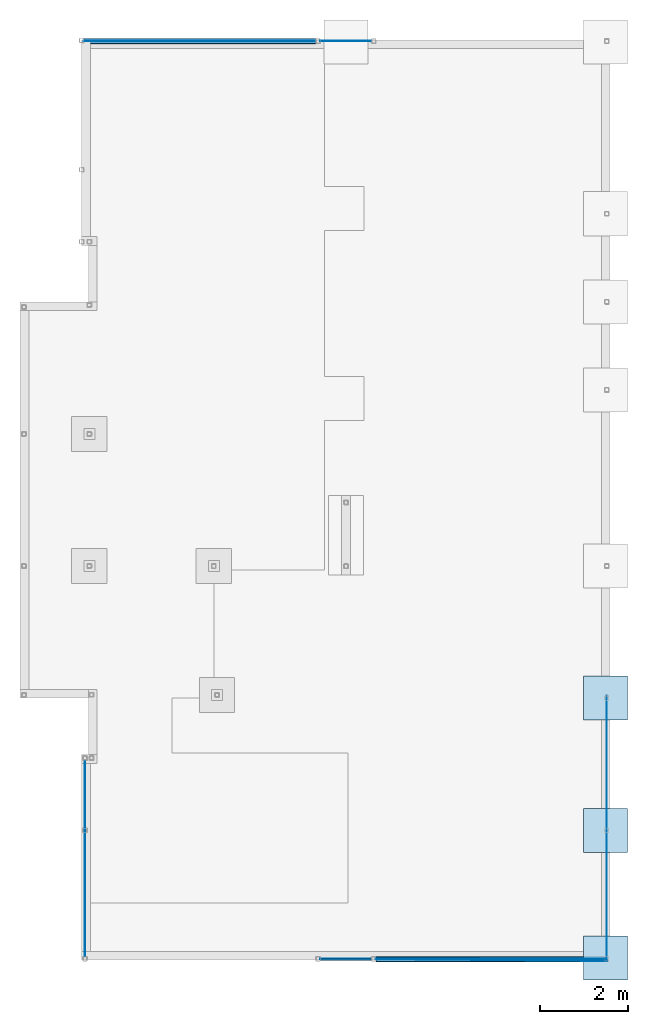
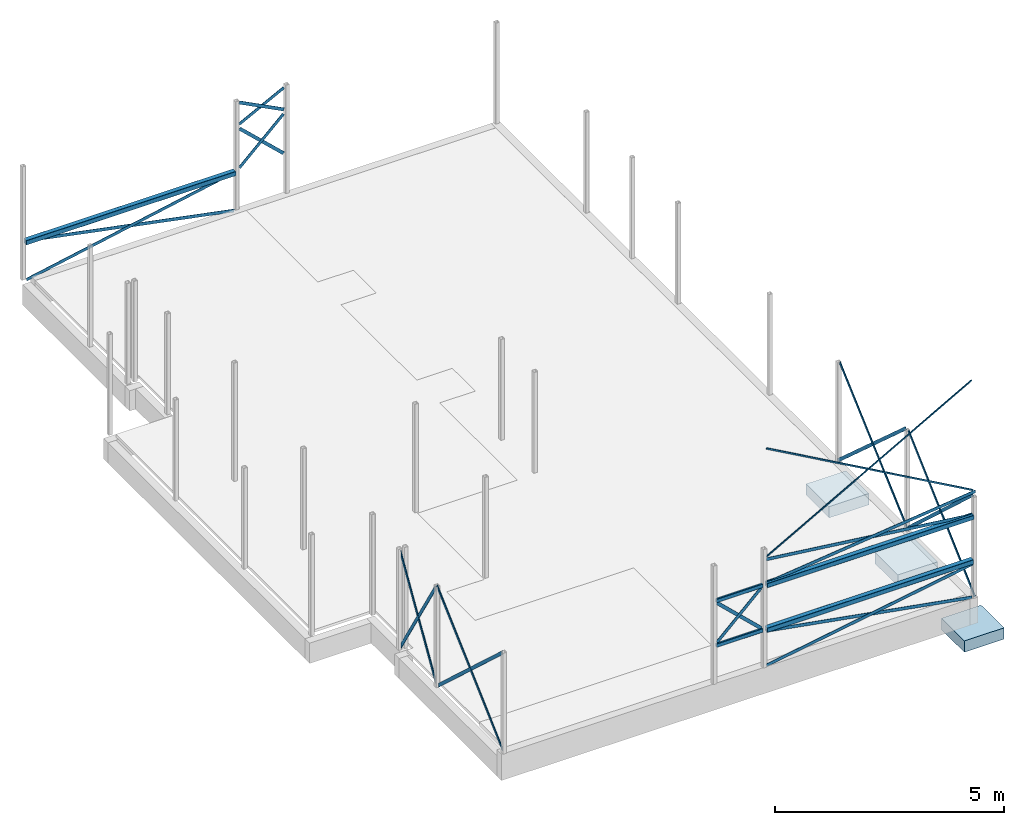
# One storey, part 4 of 5: 27 beams, 3 slabs.
"""IFC2X3 building model written with IfcOpenShell, lengths in millimetres."""

import ifcopenshell
import ifcopenshell.guid

model = None  # the IFC model being written
_history = None  # IfcOwnerHistory: only IFC2X3 demands one
_inside = {}  # id of a spatial element -> (the spatial element, [elements in it])
_under = {}  # id of a project, library or spatial element -> (it, [spatial elements below it])
_declared = {}  # id of a project -> (the project, [libraries it declares])
_typed = {}  # id of a type object -> (the type object, [elements of that type])
_made_of = {}  # id of a material, layer set ... -> (it, [elements and type objects made of it])


def new_model(schema):
    """Start an empty IFC model of exactly this schema.

    Asked for "IFC4X3", IfcOpenShell would pick the latest addendum, in which some entities
    have other attributes; the version numbers below select the first issue.
    IFC2X3 requires an IfcOwnerHistory on every rooted entity: one is made here for all.
    """
    global model, _history
    if schema == "IFC4X3":
        model = ifcopenshell.file(schema_version=(4, 3, 0, 0))
    else:
        model = ifcopenshell.file(schema=schema)
    _inside.clear()
    _under.clear()
    _declared.clear()
    _typed.clear()
    _made_of.clear()
    _history = None
    if model.schema == "IFC2X3":
        org = make("IfcOrganization", Name="unknown")
        user = make(
            "IfcPersonAndOrganization",
            ThePerson=make("IfcPerson", FamilyName="unknown"),
            TheOrganization=org,
        )
        app = make(
            "IfcApplication",
            ApplicationDeveloper=org,
            Version="unknown",
            ApplicationFullName="unknown",
            ApplicationIdentifier="unknown",
        )
        _history = make(
            "IfcOwnerHistory",
            OwningUser=user,
            OwningApplication=app,
            ChangeAction="ADDED",
            CreationDate=0,
        )
    return model


def make(cls, **values):
    """One entity of the class cls with the attributes given. An attribute that is None is left unset."""
    return model.create_entity(
        cls, **{name: value for name, value in values.items() if value is not None}
    )


def entity(cls, *values):
    """Any entity or typed value of the class cls, its attributes in the order of the schema. None: left unset."""
    e = model.create_entity(cls)
    for i, value in enumerate(values):
        if value is not None:
            e[i] = value
    return e


def rooted(cls, **values):
    """An entity with a GlobalId (a new one), such as an element, a storey or a relation."""
    return make(cls, GlobalId=ifcopenshell.guid.new(), OwnerHistory=_history, **values)


def si_unit(unit_type, name, prefix=None):
    """IfcSIUnit, for example si_unit("LENGTHUNIT", "METRE", prefix="MILLI")."""
    return make("IfcSIUnit", UnitType=unit_type, Prefix=prefix, Name=name)


def converted_unit(unit_type, name, factor, base, dimensions=None, offset=None):
    """IfcConversionBasedUnit, such as the inch: factor (a typed value) times the base unit."""
    return make(
        "IfcConversionBasedUnit"
        if offset is None
        else "IfcConversionBasedUnitWithOffset",
        ConversionOffset=offset,
        Dimensions=None
        if dimensions is None
        else entity("IfcDimensionalExponents", *dimensions),
        UnitType=unit_type,
        Name=name,
        ConversionFactor=make(
            "IfcMeasureWithUnit", ValueComponent=factor, UnitComponent=base
        ),
    )


def derived_unit(unit_type, elements):
    """IfcDerivedUnit: a product of units, each with its exponent."""
    return make(
        "IfcDerivedUnit",
        Elements=[
            make("IfcDerivedUnitElement", Unit=unit, Exponent=power)
            for unit, power in elements
        ],
        UnitType=unit_type,
    )


def assignment(units):
    """IfcUnitAssignment: the units of a project."""
    return None if units is None else make("IfcUnitAssignment", Units=units)


def point(xyz):
    """IfcCartesianPoint."""
    return None if xyz is None else make("IfcCartesianPoint", Coordinates=xyz)


def direction(xyz):
    """IfcDirection."""
    return None if xyz is None else make("IfcDirection", DirectionRatios=xyz)


def frame(location, z_axis=None, x_axis=None):
    """IfcAxis2Placement3D, a coordinate frame: its origin and axes. An axis left out is left unset."""
    return make(
        "IfcAxis2Placement3D",
        Location=point(location),
        Axis=direction(z_axis),
        RefDirection=direction(x_axis),
    )


def frame_2d(location, x_axis=None):
    """IfcAxis2Placement2D, a coordinate frame in the plane: its origin and x axis."""
    return make(
        "IfcAxis2Placement2D", Location=point(location), RefDirection=direction(x_axis)
    )


def origin():
    """The frame at (0, 0, 0) with its axes left unset."""
    return frame((0.0, 0.0, 0.0))


def origin_2d_with_axis():
    """The frame at (0, 0) in the plane with the x axis (1, 0) written out."""
    return frame_2d((0.0, 0.0), x_axis=(1.0, 0.0))


def place(relative_to, where):
    """IfcLocalPlacement: puts the frame where relative to a parent placement (None: the world)."""
    return make(
        "IfcLocalPlacement", PlacementRelTo=relative_to, RelativePlacement=where
    )


def context(
    kind, dimensions, precision=None, world=None, true_north=None, identifier=None
):
    """IfcGeometricRepresentationContext, for example the 3D "Model" context."""
    return make(
        "IfcGeometricRepresentationContext",
        ContextIdentifier=identifier,
        ContextType=kind,
        CoordinateSpaceDimension=dimensions,
        Precision=precision,
        WorldCoordinateSystem=world,
        TrueNorth=true_north,
    )


def subcontext(parent, identifier, kind, view, scale=None):
    """IfcGeometricRepresentationSubContext, for example "Body" below "Model"."""
    return make(
        "IfcGeometricRepresentationSubContext",
        ContextIdentifier=identifier,
        ContextType=kind,
        ParentContext=parent,
        TargetScale=scale,
        TargetView=view,
    )


def project(units=None, contexts=None):
    """IfcProject with its units and contexts."""
    return rooted(
        "IfcProject",
        Name="project",
        RepresentationContexts=contexts,
        UnitsInContext=assignment(units),
    )


def spatial(cls, under=None, at=None, **own):
    """A site, building, storey or space (cls), placed at a placement, below another one or the project."""
    s = rooted(cls, ObjectPlacement=at, **own)
    if under is not None:
        _under.setdefault(under.id(), (under, []))[1].append(s)
    return s


def polyline(points):
    """IfcPolyline through the points."""
    return make("IfcPolyline", Points=[point(p) for p in points])


def circle_curve(where, radius):
    """IfcCircle in the frame where."""
    return make("IfcCircle", Position=where, Radius=radius)


def parameter(value):
    """IfcParameterValue: where a trimmed curve begins or ends, as a parameter of its basis curve."""
    return model.create_entity("IfcParameterValue", value)


def trimmed(basis, trim1, trim2, sense, master):
    """IfcTrimmedCurve: the piece of a basis curve between two trims."""
    return make(
        "IfcTrimmedCurve",
        BasisCurve=basis,
        Trim1=trim1,
        Trim2=trim2,
        SenseAgreement=sense,
        MasterRepresentation=master,
    )


def segment(curve, same_sense, transition):
    """IfcCompositeCurveSegment."""
    return make(
        "IfcCompositeCurveSegment",
        Transition=transition,
        SameSense=same_sense,
        ParentCurve=curve,
    )


def composite_curve(segments, self_intersect=None):
    """IfcCompositeCurve: segments joined end to end."""
    return make("IfcCompositeCurve", Segments=segments, SelfIntersect=self_intersect)


def profile(cls, at=None, kind="AREA", **sizes):
    """A parametric profile (cls). Its sizes go by their IFC names, for example OverallWidth=200.0."""
    return make(cls, ProfileType=kind, Position=at, **sizes)


def rectangle(**sizes):
    """IfcRectangleProfileDef."""
    return profile("IfcRectangleProfileDef", **sizes)


def outline(outer, holes=None, kind="AREA"):
    """IfcArbitraryClosedProfileDef: a profile drawn as a closed curve; with holes, ...WithVoids."""
    if holes is None:
        return make("IfcArbitraryClosedProfileDef", ProfileType=kind, OuterCurve=outer)
    return make(
        "IfcArbitraryProfileDefWithVoids",
        ProfileType=kind,
        OuterCurve=outer,
        InnerCurves=holes,
    )


def extrude(swept, where, along, depth):
    """IfcExtrudedAreaSolid: the profile swept, set in the frame where, extruded along a direction by depth."""
    return make(
        "IfcExtrudedAreaSolid",
        SweptArea=swept,
        Position=where,
        ExtrudedDirection=direction(along),
        Depth=depth,
    )


def clip(a, b, op="DIFFERENCE"):
    """IfcBooleanClippingResult: the solid a cut by the half space b."""
    return make(
        "IfcBooleanClippingResult", Operator=op, FirstOperand=a, SecondOperand=b
    )


def halfspace(plane, agree):
    """IfcHalfSpaceSolid: all space on one side of the plane z = 0 of the frame plane."""
    return make(
        "IfcHalfSpaceSolid",
        BaseSurface=make("IfcPlane", Position=plane),
        AgreementFlag=agree,
    )


def shape(context_of_items, identifier, shape_type, items):
    """IfcShapeRepresentation: the items that make up one representation, for example the "Body"."""
    return make(
        "IfcShapeRepresentation",
        ContextOfItems=context_of_items,
        RepresentationIdentifier=identifier,
        RepresentationType=shape_type,
        Items=items,
    )


def material(Name=None, Category=None):
    """IfcMaterial."""
    return make("IfcMaterial", Name=Name, Category=Category)


def made_of(thing, what):
    """Note that an element or type object is made of a material, layer set ...; save() writes the relation."""
    if what is not None:
        _made_of.setdefault(what.id(), (what, []))[1].append(thing)
    return thing


def type_object(cls, material=None, **own):
    """A type object (cls), such as IfcWallType, which elements share."""
    return made_of(rooted(cls, **own), material)


def element(
    cls,
    number,
    at=None,
    inside=None,
    cuts=None,
    type_object=None,
    material=None,
    context=None,
    identifier="Body",
    shape_type=None,
    held_by="IfcProductDefinitionShape",
    body=None,
    shapes=None,
    **own,
):
    """One element of the class cls, such as IfcWall. Its Tag is "e" and its number.

    at: its placement. inside: the storey or other place that contains it. cuts: it is an
    opening in that element (IfcRelVoidsElement). A single representation is given by context,
    identifier, shape_type and body (its items); several are given by shapes. held_by: the class
    of the entity that holds the representations. save() writes the other relations.
    """
    e = rooted(cls, Tag="e%d" % number, ObjectPlacement=at, **own)
    if body is not None:
        shapes = [shape(context, identifier, shape_type, body)]
    if shapes is not None:
        e.Representation = make(held_by, Representations=shapes)
    if inside is not None:
        _inside.setdefault(inside.id(), (inside, []))[1].append(e)
    if cuts is not None:
        rooted(
            "IfcRelVoidsElement", RelatingBuildingElement=cuts, RelatedOpeningElement=e
        )
    if type_object is not None:
        _typed.setdefault(type_object.id(), (type_object, []))[1].append(e)
    return made_of(e, material)


def aggregate(whole, parts):
    """IfcRelAggregates: a whole, such as a stair, and the parts it consists of."""
    return rooted("IfcRelAggregates", RelatingObject=whole, RelatedObjects=parts)


def save(model, path):
    """Write the relations noted so far, then the file.

    IfcRelAggregates (storeys below a building ...), IfcRelContainedInSpatialStructure (elements
    in a storey), IfcRelDefinesByType, IfcRelAssociatesMaterial and IfcRelDeclares: one each for
    every whole, place, type object, material and project.
    """
    for whole, parts in _under.values():
        aggregate(whole, parts)
    for where, things in _inside.values():
        rooted(
            "IfcRelContainedInSpatialStructure",
            RelatedElements=things,
            RelatingStructure=where,
        )
    for kind, things in _typed.values():
        rooted("IfcRelDefinesByType", RelatedObjects=things, RelatingType=kind)
    for what, things in _made_of.values():
        rooted("IfcRelAssociatesMaterial", RelatedObjects=things, RelatingMaterial=what)
    for by, libraries in _declared.values():
        rooted("IfcRelDeclares", RelatingContext=by, RelatedDefinitions=libraries)
    model.write(path)


model = new_model("IFC2X3")

# Units and contexts
model_context = context("Model", 3, precision=0.01, world=origin(), true_north=direction((6.12303176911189e-17, 1.0)))
body_context = subcontext(model_context, "Body", "Model", "MODEL_VIEW")
ifc_project = project(units=[si_unit("LENGTHUNIT", "METRE", prefix="MILLI"), si_unit("AREAUNIT", "SQUARE_METRE"), si_unit("VOLUMEUNIT", "CUBIC_METRE"), converted_unit("PLANEANGLEUNIT", "DEGREE", entity("IfcRatioMeasure", 0.0174532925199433), si_unit("PLANEANGLEUNIT", "RADIAN"), dimensions=[0, 0, 0, 0, 0, 0, 0]), si_unit("MASSUNIT", "GRAM", prefix="KILO"), derived_unit("MASSDENSITYUNIT", [(si_unit("MASSUNIT", "GRAM", prefix="KILO"), 1), (si_unit("LENGTHUNIT", "METRE"), -3)]), si_unit("TIMEUNIT", "SECOND"), si_unit("FREQUENCYUNIT", "HERTZ"), si_unit("THERMODYNAMICTEMPERATUREUNIT", "DEGREE_CELSIUS"), derived_unit("THERMALTRANSMITTANCEUNIT", [(si_unit("MASSUNIT", "GRAM", prefix="KILO"), 1), (si_unit("THERMODYNAMICTEMPERATUREUNIT", "KELVIN"), -1), (si_unit("TIMEUNIT", "SECOND"), -3)]), derived_unit("VOLUMETRICFLOWRATEUNIT", [(si_unit("LENGTHUNIT", "METRE"), 3), (si_unit("TIMEUNIT", "SECOND"), -1)]), si_unit("ELECTRICCURRENTUNIT", "AMPERE"), si_unit("ELECTRICVOLTAGEUNIT", "VOLT"), si_unit("POWERUNIT", "WATT"), si_unit("FORCEUNIT", "NEWTON", prefix="KILO"), si_unit("ILLUMINANCEUNIT", "LUX"), si_unit("LUMINOUSFLUXUNIT", "LUMEN"), si_unit("LUMINOUSINTENSITYUNIT", "CANDELA"), derived_unit("USERDEFINED", [(si_unit("MASSUNIT", "GRAM", prefix="KILO"), -1), (si_unit("LENGTHUNIT", "METRE"), -2), (si_unit("TIMEUNIT", "SECOND"), 3), (si_unit("LUMINOUSFLUXUNIT", "LUMEN"), 1)]), derived_unit("LINEARVELOCITYUNIT", [(si_unit("LENGTHUNIT", "METRE"), 1), (si_unit("TIMEUNIT", "SECOND"), -1)]), si_unit("PRESSUREUNIT", "PASCAL"), derived_unit("USERDEFINED", [(si_unit("LENGTHUNIT", "METRE"), -2), (si_unit("MASSUNIT", "GRAM", prefix="KILO"), 1), (si_unit("TIMEUNIT", "SECOND"), -2)])], contexts=[model_context])

# Site, building, storey
site_placement = place(None, frame((0.0, 0.0, 101000.0)))
site = spatial("IfcSite", under=ifc_project, at=site_placement, Name="Default", CompositionType="ELEMENT")
building_placement = place(site_placement, origin())
building = spatial("IfcBuilding", under=site, at=building_placement, CompositionType="ELEMENT")
storey_placement = place(building_placement, origin())
storey = spatial("IfcBuildingStorey", under=building, at=storey_placement, Name="01", CompositionType="ELEMENT", Elevation=8.9295595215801e-10)

# Beams
ifc_material_1 = material(Name="S355")
beam_type_1 = type_object("IfcBeamType", Name="Bjelke HUP:HUP 100x50x5", PredefinedType="BEAM")
beam_1_placement = place(storey_placement, frame((16557.3191703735, 23487.8756540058, 1045.0)))
element("IfcBeam", 1, at=beam_1_placement, inside=storey, type_object=beam_type_1, material=ifc_material_1, Name="Bjelke HUP:HUP 100x50x5", ObjectType="Bjelke HUP:HUP 100x50x5", context=body_context, shape_type="SweptSolid", body=[
    extrude(outline(composite_curve([segment(trimmed(circle_curve(frame_2d((-15.0, -40.0), x_axis=(1.0, 0.0)), 10.0), [parameter(180.0)], [parameter(270.0)], True, "PARAMETER"), True, "CONTINUOUS"), segment(polyline([(-15.0, -50.0), (15.0, -50.0)]), True, "CONTINUOUS"), segment(trimmed(circle_curve(frame_2d((15.0, -40.0), x_axis=(1.0, 0.0)), 10.0), [parameter(270.0)], [parameter(1.01777749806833e-13)], True, "PARAMETER"), True, "CONTINUOUS"), segment(polyline([(25.0, -40.0), (25.0, 40.0)]), True, "CONTINUOUS"), segment(trimmed(circle_curve(frame_2d((15.0, 40.0), x_axis=(1.0, 0.0)), 10.0), [parameter(360.0)], [parameter(89.9999999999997)], True, "PARAMETER"), True, "CONTINUOUS"), segment(polyline([(15.0, 50.0), (-15.0, 50.0)]), True, "CONTINUOUS"), segment(trimmed(circle_curve(frame_2d((-15.0, 40.0), x_axis=(1.0, 0.0)), 10.0), [parameter(90.0000000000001)], [parameter(180.0)], True, "PARAMETER"), True, "CONTINUOUS"), segment(polyline([(-25.0, 40.0), (-25.0, -40.0)]), True, "CONTINUOUS")], self_intersect=False), holes=[composite_curve([segment(polyline([(15.0, -45.0), (-15.0, -45.0)]), True, "CONTINUOUS"), segment(trimmed(circle_curve(frame_2d((-15.0, -40.0), x_axis=(1.0, 0.0)), 5.0), [parameter(180.0)], [parameter(270.0)], True, "PARAMETER"), False, "CONTINUOUS"), segment(polyline([(-20.0, -40.0), (-20.0, 40.0)]), True, "CONTINUOUS"), segment(trimmed(circle_curve(frame_2d((-15.0, 40.0), x_axis=(1.0, 0.0)), 5.0), [parameter(90.0000000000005)], [parameter(180.0)], True, "PARAMETER"), False, "CONTINUOUS"), segment(polyline([(-15.0, 45.0), (15.0, 45.0)]), True, "CONTINUOUS"), segment(trimmed(circle_curve(frame_2d((15.0, 40.0), x_axis=(1.0, 0.0)), 5.0), [parameter(0.0)], [parameter(90.0000000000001)], True, "PARAMETER"), False, "CONTINUOUS"), segment(polyline([(20.0, 40.0), (20.0, -40.0)]), True, "CONTINUOUS"), segment(trimmed(circle_curve(frame_2d((15.0, -40.0), x_axis=(1.0, 0.0)), 5.0), [parameter(270.0)], [parameter(3.05333249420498e-13)], True, "PARAMETER"), False, "CONTINUOUS")], self_intersect=False)]), frame((47.9710376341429, 0.0, -50.0), z_axis=(1.0, 0.0, 0.0), x_axis=(0.0, -1.0, 0.0)), (0.0, 0.0, 1.0), 1161.94875565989),
])
beam_2_placement = place(storey_placement, frame((16557.3191703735, 23487.8756540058, 2235.0)))
element("IfcBeam", 2, at=beam_2_placement, inside=storey, type_object=beam_type_1, material=ifc_material_1, Name="Bjelke HUP:HUP 100x50x5", ObjectType="Bjelke HUP:HUP 100x50x5", context=body_context, shape_type="SweptSolid", body=[
    extrude(outline(composite_curve([segment(trimmed(circle_curve(frame_2d((-15.0, -40.0), x_axis=(1.0, 0.0)), 10.0), [parameter(180.0)], [parameter(270.0)], True, "PARAMETER"), True, "CONTINUOUS"), segment(polyline([(-15.0, -50.0), (15.0, -50.0)]), True, "CONTINUOUS"), segment(trimmed(circle_curve(frame_2d((15.0, -40.0), x_axis=(1.0, 0.0)), 10.0), [parameter(270.0)], [parameter(1.01777749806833e-13)], True, "PARAMETER"), True, "CONTINUOUS"), segment(polyline([(25.0, -40.0), (25.0, 40.0)]), True, "CONTINUOUS"), segment(trimmed(circle_curve(frame_2d((15.0, 40.0), x_axis=(1.0, 0.0)), 10.0), [parameter(360.0)], [parameter(89.9999999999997)], True, "PARAMETER"), True, "CONTINUOUS"), segment(polyline([(15.0, 50.0), (-15.0, 50.0)]), True, "CONTINUOUS"), segment(trimmed(circle_curve(frame_2d((-15.0, 40.0), x_axis=(1.0, 0.0)), 10.0), [parameter(90.0000000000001)], [parameter(180.0)], True, "PARAMETER"), True, "CONTINUOUS"), segment(polyline([(-25.0, 40.0), (-25.0, -40.0)]), True, "CONTINUOUS")], self_intersect=False), holes=[composite_curve([segment(polyline([(15.0, -45.0), (-15.0, -45.0)]), True, "CONTINUOUS"), segment(trimmed(circle_curve(frame_2d((-15.0, -40.0), x_axis=(1.0, 0.0)), 5.0), [parameter(180.0)], [parameter(270.0)], True, "PARAMETER"), False, "CONTINUOUS"), segment(polyline([(-20.0, -40.0), (-20.0, 40.0)]), True, "CONTINUOUS"), segment(trimmed(circle_curve(frame_2d((-15.0, 40.0), x_axis=(1.0, 0.0)), 5.0), [parameter(90.0000000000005)], [parameter(180.0)], True, "PARAMETER"), False, "CONTINUOUS"), segment(polyline([(-15.0, 45.0), (15.0, 45.0)]), True, "CONTINUOUS"), segment(trimmed(circle_curve(frame_2d((15.0, 40.0), x_axis=(1.0, 0.0)), 5.0), [parameter(0.0)], [parameter(90.0000000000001)], True, "PARAMETER"), False, "CONTINUOUS"), segment(polyline([(20.0, 40.0), (20.0, -40.0)]), True, "CONTINUOUS"), segment(trimmed(circle_curve(frame_2d((15.0, -40.0), x_axis=(1.0, 0.0)), 5.0), [parameter(270.0)], [parameter(3.05333249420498e-13)], True, "PARAMETER"), False, "CONTINUOUS")], self_intersect=False)]), frame((47.9710376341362, 0.0, -50.0), z_axis=(1.0, 0.0, 0.0), x_axis=(0.0, -1.0, 0.0)), (0.0, 0.0, 1.0), 1161.94875565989),
])
beam_type_2 = type_object("IfcBeamType", Name="Bjelke HUP:HUP 120x120x5", PredefinedType="BEAM")
beam_3_placement = place(storey_placement, frame((17805.5082167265, 23487.8756540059, 2235.0)))
element("IfcBeam", 3, at=beam_3_placement, inside=storey, type_object=beam_type_2, material=ifc_material_1, Name="Bjelke HUP:HUP 120x120x5", ObjectType="Bjelke HUP:HUP 120x120x5", context=body_context, shape_type="SweptSolid", body=[
    extrude(outline(composite_curve([segment(trimmed(circle_curve(frame_2d((-50.0, -50.0), x_axis=(1.0, 0.0)), 10.0), [parameter(180.0)], [parameter(269.999999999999)], True, "PARAMETER"), True, "CONTINUOUS"), segment(polyline([(-50.0, -60.0), (50.0, -60.0)]), True, "CONTINUOUS"), segment(trimmed(circle_curve(frame_2d((50.0, -50.0), x_axis=(1.0, 0.0)), 10.0), [parameter(270.0)], [parameter(5.08888749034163e-14)], True, "PARAMETER"), True, "CONTINUOUS"), segment(polyline([(60.0, -50.0), (60.0, 50.0)]), True, "CONTINUOUS"), segment(trimmed(circle_curve(frame_2d((50.0, 50.0), x_axis=(1.0, 0.0)), 10.0), [parameter(360.0)], [parameter(89.9999999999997)], True, "PARAMETER"), True, "CONTINUOUS"), segment(polyline([(50.0, 60.0), (-50.0, 60.0)]), True, "CONTINUOUS"), segment(trimmed(circle_curve(frame_2d((-50.0, 50.0), x_axis=(1.0, 0.0)), 10.0), [parameter(90.0000000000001)], [parameter(180.0)], True, "PARAMETER"), True, "CONTINUOUS"), segment(polyline([(-60.0, 50.0), (-60.0, -50.0)]), True, "CONTINUOUS")], self_intersect=False), holes=[composite_curve([segment(polyline([(50.0, -55.0), (-50.0, -55.0)]), True, "CONTINUOUS"), segment(trimmed(circle_curve(frame_2d((-50.0, -50.0), x_axis=(1.0, 0.0)), 5.0), [parameter(180.0)], [parameter(270.0)], True, "PARAMETER"), False, "CONTINUOUS"), segment(polyline([(-55.0, -50.0), (-55.0, 50.0)]), True, "CONTINUOUS"), segment(trimmed(circle_curve(frame_2d((-50.0, 50.0), x_axis=(1.0, 0.0)), 5.0), [parameter(90.0000000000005)], [parameter(180.0)], True, "PARAMETER"), False, "CONTINUOUS"), segment(polyline([(-50.0, 55.0), (50.0, 55.0)]), True, "CONTINUOUS"), segment(trimmed(circle_curve(frame_2d((50.0, 50.0), x_axis=(1.0, 0.0)), 5.0), [parameter(0.0)], [parameter(90.0000000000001)], True, "PARAMETER"), False, "CONTINUOUS"), segment(polyline([(55.0, 50.0), (55.0, -50.0)]), True, "CONTINUOUS"), segment(trimmed(circle_curve(frame_2d((50.0, -50.0), x_axis=(1.0, 0.0)), 5.0), [parameter(270.0)], [parameter(3.05333249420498e-13)], True, "PARAMETER"), False, "CONTINUOUS")], self_intersect=False)]), frame((61.7307469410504, 0.0, -60.0), z_axis=(1.0, 0.0, 0.0), x_axis=(0.0, -1.0, 0.0)), (0.0, 0.0, 1.0), 5194.02553270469),
])
beam_4_placement = place(storey_placement, frame((17805.5082167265, 23487.8756540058, 1045.0), z_axis=(0.0, 0.0, 1.0), x_axis=(0.999998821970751, 0.0015349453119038, 0.0)))
element("IfcBeam", 4, at=beam_4_placement, inside=storey, type_object=beam_type_2, material=ifc_material_1, Name="Bjelke HUP:HUP 120x120x5", ObjectType="Bjelke HUP:HUP 120x120x5", context=body_context, shape_type="SweptSolid", body=[
    extrude(outline(composite_curve([segment(trimmed(circle_curve(frame_2d((-50.0, -50.0), x_axis=(1.0, 0.0)), 10.0), [parameter(180.0)], [parameter(269.999999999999)], True, "PARAMETER"), True, "CONTINUOUS"), segment(polyline([(-50.0, -60.0), (50.0, -60.0)]), True, "CONTINUOUS"), segment(trimmed(circle_curve(frame_2d((50.0, -50.0), x_axis=(1.0, 0.0)), 10.0), [parameter(270.0)], [parameter(5.08888749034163e-14)], True, "PARAMETER"), True, "CONTINUOUS"), segment(polyline([(60.0, -50.0), (60.0, 50.0)]), True, "CONTINUOUS"), segment(trimmed(circle_curve(frame_2d((50.0, 50.0), x_axis=(1.0, 0.0)), 10.0), [parameter(360.0)], [parameter(89.9999999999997)], True, "PARAMETER"), True, "CONTINUOUS"), segment(polyline([(50.0, 60.0), (-50.0, 60.0)]), True, "CONTINUOUS"), segment(trimmed(circle_curve(frame_2d((-50.0, 50.0), x_axis=(1.0, 0.0)), 10.0), [parameter(90.0000000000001)], [parameter(180.0)], True, "PARAMETER"), True, "CONTINUOUS"), segment(polyline([(-60.0, 50.0), (-60.0, -50.0)]), True, "CONTINUOUS")], self_intersect=False), holes=[composite_curve([segment(polyline([(50.0, -55.0), (-50.0, -55.0)]), True, "CONTINUOUS"), segment(trimmed(circle_curve(frame_2d((-50.0, -50.0), x_axis=(1.0, 0.0)), 5.0), [parameter(180.0)], [parameter(270.0)], True, "PARAMETER"), False, "CONTINUOUS"), segment(polyline([(-55.0, -50.0), (-55.0, 50.0)]), True, "CONTINUOUS"), segment(trimmed(circle_curve(frame_2d((-50.0, 50.0), x_axis=(1.0, 0.0)), 5.0), [parameter(90.0000000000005)], [parameter(180.0)], True, "PARAMETER"), False, "CONTINUOUS"), segment(polyline([(-50.0, 55.0), (50.0, 55.0)]), True, "CONTINUOUS"), segment(trimmed(circle_curve(frame_2d((50.0, 50.0), x_axis=(1.0, 0.0)), 5.0), [parameter(0.0)], [parameter(90.0000000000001)], True, "PARAMETER"), False, "CONTINUOUS"), segment(polyline([(55.0, 50.0), (55.0, -50.0)]), True, "CONTINUOUS"), segment(trimmed(circle_curve(frame_2d((50.0, -50.0), x_axis=(1.0, 0.0)), 5.0), [parameter(270.0)], [parameter(3.05333249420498e-13)], True, "PARAMETER"), False, "CONTINUOUS")], self_intersect=False)]), frame((61.822886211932, 0.0, -60.0), z_axis=(1.0, 0.0, 0.0), x_axis=(0.0, -1.0, 0.0)), (0.0, 0.0, 1.0), 5193.86592006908),
])
beam_5_placement = place(storey_placement, frame((16555.2902080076, 44337.9507529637, 1045.0), z_axis=(0.0, 0.0, 1.0), x_axis=(-1.0, 0.0, 0.0)))
element("IfcBeam", 5, at=beam_5_placement, inside=storey, type_object=beam_type_2, material=ifc_material_1, Name="Bjelke HUP:HUP 120x120x5", ObjectType="Bjelke HUP:HUP 120x120x5", context=body_context, shape_type="SweptSolid", body=[
    extrude(outline(composite_curve([segment(trimmed(circle_curve(frame_2d((-50.0, -50.0), x_axis=(1.0, 0.0)), 10.0), [parameter(180.0)], [parameter(269.999999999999)], True, "PARAMETER"), True, "CONTINUOUS"), segment(polyline([(-50.0, -60.0), (50.0, -60.0)]), True, "CONTINUOUS"), segment(trimmed(circle_curve(frame_2d((50.0, -50.0), x_axis=(1.0, 0.0)), 10.0), [parameter(270.0)], [parameter(5.08888749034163e-14)], True, "PARAMETER"), True, "CONTINUOUS"), segment(polyline([(60.0, -50.0), (60.0, 50.0)]), True, "CONTINUOUS"), segment(trimmed(circle_curve(frame_2d((50.0, 50.0), x_axis=(1.0, 0.0)), 10.0), [parameter(360.0)], [parameter(89.9999999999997)], True, "PARAMETER"), True, "CONTINUOUS"), segment(polyline([(50.0, 60.0), (-50.0, 60.0)]), True, "CONTINUOUS"), segment(trimmed(circle_curve(frame_2d((-50.0, 50.0), x_axis=(1.0, 0.0)), 10.0), [parameter(90.0000000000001)], [parameter(180.0)], True, "PARAMETER"), True, "CONTINUOUS"), segment(polyline([(-60.0, 50.0), (-60.0, -50.0)]), True, "CONTINUOUS")], self_intersect=False), holes=[composite_curve([segment(polyline([(50.0, -55.0), (-50.0, -55.0)]), True, "CONTINUOUS"), segment(trimmed(circle_curve(frame_2d((-50.0, -50.0), x_axis=(1.0, 0.0)), 5.0), [parameter(180.0)], [parameter(270.0)], True, "PARAMETER"), False, "CONTINUOUS"), segment(polyline([(-55.0, -50.0), (-55.0, 50.0)]), True, "CONTINUOUS"), segment(trimmed(circle_curve(frame_2d((-50.0, 50.0), x_axis=(1.0, 0.0)), 5.0), [parameter(90.0000000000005)], [parameter(180.0)], True, "PARAMETER"), False, "CONTINUOUS"), segment(polyline([(-50.0, 55.0), (50.0, 55.0)]), True, "CONTINUOUS"), segment(trimmed(circle_curve(frame_2d((50.0, 50.0), x_axis=(1.0, 0.0)), 5.0), [parameter(0.0)], [parameter(90.0000000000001)], True, "PARAMETER"), False, "CONTINUOUS"), segment(polyline([(55.0, 50.0), (55.0, -50.0)]), True, "CONTINUOUS"), segment(trimmed(circle_curve(frame_2d((50.0, -50.0), x_axis=(1.0, 0.0)), 5.0), [parameter(270.0)], [parameter(3.05333249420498e-13)], True, "PARAMETER"), False, "CONTINUOUS")], self_intersect=False)]), frame((50.0, 0.0, -60.0), z_axis=(1.0, 0.0, 0.0), x_axis=(0.0, -1.0, 0.0)), (0.0, 0.0, 1.0), 5269.02571102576),
])
ifc_material_2 = material(Name="Structural Framing Fireproofing")
beam_type_3 = type_object("IfcBeamType", Name="Bjelke Stålplate:VINDKRYSS", PredefinedType="BEAM")
beam_6_placement = place(storey_placement, frame((23111.2644969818, 23496.0197093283, 2235.0), z_axis=(0.121599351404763, 0.0, 0.992579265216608), x_axis=(-0.992579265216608, 0.0, 0.121599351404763)))
element("IfcBeam", 6, at=beam_6_placement, inside=storey, type_object=beam_type_3, material=ifc_material_2, Name="Bjelke Stålplate:VINDKRYSS", ObjectType="Bjelke Stålplate:VINDKRYSS", context=body_context, shape_type="SweptSolid", body=[
    extrude(rectangle(XDim=80.0000000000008, YDim=8.00000000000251, at=frame_2d((5.32907051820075e-13, 2.16582307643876e-12), x_axis=(1.0, 0.0))), frame((50.3738106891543, 0.0, -40.0), z_axis=(1.0, 0.0, 0.0), x_axis=(0.0, 0.0, -1.0)), (0.0, 0.0, 1.0), 5223.05650226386),
])
beam_7_placement = place(storey_placement, frame((17805.5082167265, 23496.0197093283, 2235.0), z_axis=(-0.121640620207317, 0.00110250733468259, 0.992573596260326), x_axis=(0.992532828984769, -0.00899596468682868, 0.121645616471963)))
element("IfcBeam", 7, at=beam_7_placement, inside=storey, type_object=beam_type_3, material=ifc_material_2, Name="Bjelke Stålplate:VINDKRYSS", ObjectType="Bjelke Stålplate:VINDKRYSS", context=body_context, shape_type="SweptSolid", body=[
    extrude(rectangle(XDim=80.0000000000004, YDim=8.0000000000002, at=frame_2d((-1.35003119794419e-13, 2.16582307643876e-12), x_axis=(1.0, 0.0))), frame((62.2316946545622, 0.0, -40.0), z_axis=(1.0, 0.0, 0.0), x_axis=(0.0, 0.0, -1.0)), (0.0, 0.0, 1.0), 5281.15886516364),
])
beam_8_placement = place(storey_placement, frame((23111.2644969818, 23496.0197093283, 40.0), z_axis=(0.175348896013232, 0.0, 0.984506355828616), x_axis=(-0.984506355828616, 0.0, 0.175348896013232)))
element("IfcBeam", 8, at=beam_8_placement, inside=storey, type_object=beam_type_3, material=ifc_material_2, Name="Bjelke Stålplate:VINDKRYSS", ObjectType="Bjelke Stålplate:VINDKRYSS", context=body_context, shape_type="SweptSolid", body=[
    extrude(rectangle(XDim=79.999999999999, YDim=8.00000000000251, at=frame_2d((-5.57776047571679e-13, 2.16582307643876e-12), x_axis=(1.0, 0.0))), frame((50.7868737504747, 0.0, -40.0), z_axis=(1.0, 0.0, 0.0), x_axis=(0.0, 0.0, -1.0)), (0.0, 0.0, 1.0), 5261.51770475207),
])
beam_9_placement = place(storey_placement, frame((17805.5082167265, 23496.0197093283, 40.0), z_axis=(-0.175407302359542, 0.00158982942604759, 0.984494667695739), x_axis=(0.98445423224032, -0.0089227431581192, 0.175414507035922)))
element("IfcBeam", 9, at=beam_9_placement, inside=storey, type_object=beam_type_3, material=ifc_material_2, Name="Bjelke Stålplate:VINDKRYSS", ObjectType="Bjelke Stålplate:VINDKRYSS", context=body_context, shape_type="SweptSolid", body=[
    extrude(rectangle(XDim=79.9999999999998, YDim=8.0000000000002, at=frame_2d((-1.77635683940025e-13, 2.16537898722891e-12), x_axis=(1.0, 0.0))), frame((62.7423784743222, 0.0, -40.0), z_axis=(1.0, 0.0, 0.0), x_axis=(0.0, 0.0, -1.0)), (0.0, 0.0, 1.0), 5261.71788723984),
])
beam_10_placement = place(storey_placement, frame((16557.3191703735, 23496.0196540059, 1045.0), z_axis=(-0.69003471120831, 0.0, 0.723776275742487), x_axis=(0.723776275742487, 0.0, 0.69003471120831)))
element("IfcBeam", 10, at=beam_10_placement, inside=storey, type_object=beam_type_3, material=ifc_material_2, Name="Bjelke Stålplate:VINDKRYSS", ObjectType="Bjelke Stålplate:VINDKRYSS", context=body_context, shape_type="SweptSolid", body=[
    extrude(rectangle(XDim=80.0000000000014, YDim=8.00000000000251, at=frame_2d((-4.61852778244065e-14, -2.16582307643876e-12), x_axis=(1.0, 0.0))), frame((66.2788201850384, 0.0, -40.0), z_axis=(1.0, 0.0, 0.0), x_axis=(0.0, 0.0, -1.0)), (0.0, 0.0, 1.0), 1529.12718454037),
])
beam_11_placement = place(storey_placement, frame((16557.3191703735, 23496.0196540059, 2235.0), z_axis=(0.69003471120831, 0.0, 0.723776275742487), x_axis=(0.723776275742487, 0.0, -0.69003471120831)))
element("IfcBeam", 11, at=beam_11_placement, inside=storey, type_object=beam_type_3, material=ifc_material_2, Name="Bjelke Stålplate:VINDKRYSS", ObjectType="Bjelke Stålplate:VINDKRYSS", context=body_context, shape_type="SweptSolid", body=[
    extrude(rectangle(XDim=80.0000000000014, YDim=8.00000000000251, at=frame_2d((2.57571741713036e-12, -2.16582307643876e-12), x_axis=(1.0, 0.0))), frame((142.549318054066, 0.0, -40.0), z_axis=(1.0, 0.0, 0.0), x_axis=(0.0, 0.0, -1.0)), (0.0, 0.0, 1.0), 1529.12718454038),
])
beam_12_placement = place(storey_placement, frame((16555.2902080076, 44337.9507529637, 0.0), z_axis=(0.19364292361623, 0.0, 0.98107207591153), x_axis=(-0.98107207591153, 0.0, 0.19364292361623)))
element("IfcBeam", 12, at=beam_12_placement, inside=storey, type_object=beam_type_3, material=ifc_material_2, Name="Bjelke Stålplate:VINDKRYSS", ObjectType="Bjelke Stålplate:VINDKRYSS", context=body_context, shape_type="SweptSolid", body=[
    extrude(rectangle(XDim=79.9999999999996, YDim=8.00000000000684, at=frame_2d((3.5527136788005e-15, -4.33164615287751e-12), x_axis=(1.0, 0.0))), frame((50.9646551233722, 0.0, -40.0), z_axis=(1.0, 0.0, 0.0), x_axis=(0.0, 0.0, -1.0)), (0.0, 0.0, 1.0), 5354.89125226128),
])
beam_13_placement = place(storey_placement, frame((11260.9045409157, 44337.9507529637, 0.0), z_axis=(-0.19364292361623, 0.0, 0.98107207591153), x_axis=(0.98107207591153, 0.0, 0.19364292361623)))
element("IfcBeam", 13, at=beam_13_placement, inside=storey, type_object=beam_type_3, material=ifc_material_2, Name="Bjelke Stålplate:VINDKRYSS", ObjectType="Bjelke Stålplate:VINDKRYSS", context=body_context, shape_type="SweptSolid", body=[
    extrude(rectangle(XDim=79.9999999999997, YDim=8.00000000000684, at=frame_2d((9.2370555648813e-14, -4.33164615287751e-12), x_axis=(1.0, 0.0))), frame((6.09600813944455e-07, 0.0, -40.0), z_axis=(1.0, 0.0, 0.0), x_axis=(0.0, 0.0, -1.0)), (0.0, 0.0, 1.0), 5329.77582482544),
])
beam_14_placement = place(storey_placement, frame((16555.2902080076, 44337.9507529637, 2235.0), z_axis=(0.686062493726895, 0.0, 0.727542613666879), x_axis=(0.727542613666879, 0.0, -0.686062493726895)))
element("IfcBeam", 14, at=beam_14_placement, inside=storey, type_object=beam_type_3, material=ifc_material_2, Name="Bjelke Stålplate:VINDKRYSS", ObjectType="Bjelke Stålplate:VINDKRYSS", context=body_context, shape_type="SweptSolid", body=[
    extrude(rectangle(XDim=80.0000000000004, YDim=8.00000000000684, at=frame_2d((0.0, -4.33164615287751e-12), x_axis=(1.0, 0.0))), frame((144.163376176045, 0.0, -40.0), z_axis=(1.0, 0.0, 0.0), x_axis=(0.0, 0.0, -1.0)), (0.0, 0.0, 1.0), 1521.64799059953),
])
beam_15_placement = place(storey_placement, frame((16555.2902080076, 44337.9507529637, 1045.0), z_axis=(-0.686062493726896, 0.0, 0.727542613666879), x_axis=(0.727542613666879, 0.0, 0.686062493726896)))
element("IfcBeam", 15, at=beam_15_placement, inside=storey, type_object=beam_type_3, material=ifc_material_2, Name="Bjelke Stålplate:VINDKRYSS", ObjectType="Bjelke Stålplate:VINDKRYSS", context=body_context, shape_type="SweptSolid", body=[
    extrude(rectangle(XDim=80.0000000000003, YDim=8.00000000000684, at=frame_2d((-5.32907051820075e-14, -4.33164615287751e-12), x_axis=(1.0, 0.0))), frame((68.7244967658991, 0.0, -40.0), z_axis=(1.0, 0.0, 0.0), x_axis=(0.0, 0.0, -1.0)), (0.0, 0.0, 1.0), 1521.64799059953),
])
beam_16_placement = place(storey_placement, frame((17817.2389636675, 44337.9507529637, 2235.0), z_axis=(0.457903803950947, 0.0, 0.889001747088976), x_axis=(-0.889001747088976, 0.0, 0.457903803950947)))
element("IfcBeam", 16, at=beam_16_placement, inside=storey, type_object=beam_type_3, material=ifc_material_2, Name="Bjelke Stålplate:VINDKRYSS", ObjectType="Bjelke Stålplate:VINDKRYSS", context=body_context, shape_type="SweptSolid", body=[
    extrude(rectangle(XDim=79.9999999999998, YDim=8.00000000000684, at=frame_2d((-7.35411731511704e-13, -4.33164615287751e-12), x_axis=(1.0, 0.0))), frame((56.2428590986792, 0.0, -40.0), z_axis=(1.0, 0.0, 0.0), x_axis=(0.0, 0.0, -1.0)), (0.0, 0.0, 1.0), 1265.82029228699),
])
beam_17_placement = place(storey_placement, frame((16555.2902080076, 44337.9507529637, 2235.0), z_axis=(-0.457903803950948, 0.0, 0.889001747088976), x_axis=(0.889001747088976, 0.0, 0.457903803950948)))
element("IfcBeam", 17, at=beam_17_placement, inside=storey, type_object=beam_type_3, material=ifc_material_2, Name="Bjelke Stålplate:VINDKRYSS", ObjectType="Bjelke Stålplate:VINDKRYSS", context=body_context, shape_type="SweptSolid", body=[
    extrude(rectangle(XDim=79.9999999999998, YDim=8.00000000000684, at=frame_2d((-8.5265128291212e-13, -4.33164615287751e-12), x_axis=(1.0, 0.0))), frame((56.2428590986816, 0.0, -40.0), z_axis=(1.0, 0.0, 0.0), x_axis=(0.0, 0.0, -1.0)), (0.0, 0.0, 1.0), 1265.82029228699),
])
for number, where, z_axis, x_axis in (
    (18, (23111.2644969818, 23497.9507529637, 0.0), (0.0, -0.676865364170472, 0.736106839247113), (0.0, 0.736106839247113, 0.676865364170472)),
    (19, (23111.2644969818, 26417.9507529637, 0.0), (0.0, 0.676865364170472, 0.736106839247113), (0.0, -0.736106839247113, 0.676865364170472)),
):
    element("IfcBeam", number, at=place(storey_placement, frame(where, z_axis=z_axis, x_axis=x_axis)), inside=storey, type_object=beam_type_3, material=ifc_material_2, Name="Bjelke Stålplate:VINDKRYSS", ObjectType="Bjelke Stålplate:VINDKRYSS", context=body_context, shape_type="SweptSolid", body=[
        extrude(rectangle(XDim=80.0000000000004, YDim=8.00000000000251, at=frame_2d((2.27728946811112e-12, -2.16582307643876e-12), x_axis=(1.0, 0.0))), frame((0.0, 0.0, 40.0), z_axis=(1.0, 0.0, 0.0), x_axis=(0.0, 0.0, -1.0)), (0.0, 0.0, 1.0), 3930.01013143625),
    ])
beam_18_placement = place(storey_placement, frame((23111.2644969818, 26417.9507529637, 0.0), z_axis=(0.0, -0.666903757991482, 0.745143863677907), x_axis=(0.0, 0.745143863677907, 0.666903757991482)))
element("IfcBeam", 20, at=beam_18_placement, inside=storey, type_object=beam_type_3, material=ifc_material_2, Name="Bjelke Stålplate:VINDKRYSS", ObjectType="Bjelke Stålplate:VINDKRYSS", context=body_context, shape_type="SweptSolid", body=[
    extrude(rectangle(XDim=80.0000000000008, YDim=8.00000000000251, at=frame_2d((-9.2370555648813e-14, 2.16582307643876e-12), x_axis=(1.0, 0.0))), frame((0.0, 0.0, 40.0), z_axis=(1.0, 0.0, 0.0), x_axis=(0.0, 0.0, -1.0)), (0.0, 0.0, 1.0), 3988.81098805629),
])
beam_19_placement = place(storey_placement, frame((23111.2644969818, 29417.9507529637, 0.0), z_axis=(0.0, 0.666903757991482, 0.745143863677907), x_axis=(0.0, -0.745143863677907, 0.666903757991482)))
element("IfcBeam", 21, at=beam_19_placement, inside=storey, type_object=beam_type_3, material=ifc_material_2, Name="Bjelke Stålplate:VINDKRYSS", ObjectType="Bjelke Stålplate:VINDKRYSS", context=body_context, shape_type="SweptSolid", body=[
    extrude(rectangle(XDim=80.0000000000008, YDim=8.00000000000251, at=frame_2d((-9.2370555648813e-14, -2.16582307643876e-12), x_axis=(1.0, 0.0))), frame((0.0, 0.0, 40.0), z_axis=(1.0, 0.0, 0.0), x_axis=(0.0, 0.0, -1.0)), (0.0, 0.0, 1.0), 3988.81098805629),
])
beam_20_placement = place(storey_placement, frame((11261.2644969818, 28014.7336358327, 71.5243671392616), z_axis=(1.0, 0.0, 0.0), x_axis=(0.0, -0.521368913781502, 0.853331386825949)))
element("IfcBeam", 22, at=beam_20_placement, inside=storey, type_object=beam_type_3, material=ifc_material_2, Name="Bjelke Stålplate:VINDKRYSS", ObjectType="Bjelke Stålplate:VINDKRYSS", context=body_context, shape_type="Clipping", body=[
    clip(clip(extrude(rectangle(XDim=80.0000000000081, YDim=8.00000000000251, at=frame_2d((1.08268949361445e-12, -2.43716158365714e-12), x_axis=(0.0, 1.0))), frame((-15.0244006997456, 0.0, 0.0), z_axis=(1.0, 0.0, 0.0), x_axis=(0.0, 0.0, -1.0)), (0.0, 0.0, 1.0), 3008.90473587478), halfspace(frame((717.916518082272, 1350.56971470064, -37.3999999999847), z_axis=(0.521368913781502, 0.853331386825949, 0.0), x_axis=(0.853331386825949, -0.521368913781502, 0.0)), False)), halfspace(frame((-64.3886127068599, 70.1605753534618, 37.3999999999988), z_axis=(-0.521368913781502, -0.853331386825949, 0.0), x_axis=(0.853331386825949, -0.521368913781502, 0.0)), False)),
])
beam_21_placement = place(storey_placement, frame((11261.2644969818, 28014.7336358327, 2618.34244036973), z_axis=(1.0, 0.0, 0.0), x_axis=(0.0, -0.520662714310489, -0.853762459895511)))
element("IfcBeam", 23, at=beam_21_placement, inside=storey, type_object=beam_type_3, material=ifc_material_2, Name="Bjelke Stålplate:VINDKRYSS", ObjectType="Bjelke Stålplate:VINDKRYSS", context=body_context, shape_type="Clipping", body=[
    clip(clip(extrude(rectangle(XDim=80.0000000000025, YDim=8.00000000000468, at=frame_2d((1.08268949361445e-12, 0.0), x_axis=(0.0, 1.0))), frame((-15.0778962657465, 0.0, 0.0), z_axis=(1.0, 0.0, 0.0), x_axis=(0.0, 0.0, -1.0)), (0.0, 0.0, 1.0), 3013.05209023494), halfspace(frame((2266.21116132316, 1351.23258358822, 37.3999999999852), z_axis=(-0.520662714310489, 0.853762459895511, 0.0), x_axis=(-0.853762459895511, -0.520662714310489, 0.0)), False)), halfspace(frame((3047.45665189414, 70.1766264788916, -37.3999999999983), z_axis=(0.520662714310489, -0.853762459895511, 0.0), x_axis=(-0.853762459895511, -0.520662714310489, 0.0)), False)),
])
beam_22_placement = place(storey_placement, frame((11261.2644969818, 26418.3150311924, 0.597329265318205), z_axis=(0.0, 0.676311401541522, 0.73661583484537), x_axis=(0.0, -0.73661583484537, 0.676311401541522)))
element("IfcBeam", 24, at=beam_22_placement, inside=storey, type_object=beam_type_3, material=ifc_material_2, Name="Bjelke Stålplate:VINDKRYSS", ObjectType="Bjelke Stålplate:VINDKRYSS", context=body_context, shape_type="Clipping", body=[
    clip(clip(extrude(rectangle(XDim=80.0000000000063, YDim=8.00000000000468, at=frame_2d((2.16360263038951e-12, 0.0), x_axis=(1.0, 0.0))), frame((58.798385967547, 0.0, 0.0), z_axis=(1.0, 0.0, 0.0), x_axis=(0.0, 0.0, -1.0)), (0.0, 0.0, 1.0), 3847.46672289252), halfspace(frame((37.9012329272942, 37.4000000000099, -62.7604825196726), z_axis=(-0.73661583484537, 0.0, 0.676311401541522), x_axis=(0.676311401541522, 0.0, 0.73661583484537)), False)), halfspace(frame((2085.69325379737, -37.3999999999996, -1942.90617880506), z_axis=(0.73661583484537, 0.0, -0.676311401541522), x_axis=(0.676311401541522, 0.0, 0.73661583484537)), False)),
])
beam_23_placement = place(storey_placement, frame((11261.2644969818, 23497.5864747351, 0.597329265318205), z_axis=(0.0, -0.676311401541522, 0.73661583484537), x_axis=(0.0, 0.73661583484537, 0.676311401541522)))
element("IfcBeam", 25, at=beam_23_placement, inside=storey, type_object=beam_type_3, material=ifc_material_2, Name="Bjelke Stålplate:VINDKRYSS", ObjectType="Bjelke Stålplate:VINDKRYSS", context=body_context, shape_type="Clipping", body=[
    clip(extrude(rectangle(XDim=80.0000000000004, YDim=8.00000000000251, at=frame_2d((2.28794760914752e-12, 0.0), x_axis=(1.0, 0.0))), frame((58.7983859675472, 0.0, 0.0), z_axis=(1.0, 0.0, 0.0), x_axis=(0.0, 0.0, -1.0)), (0.0, 0.0, 1.0), 3905.84849167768), halfspace(frame((37.9012329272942, 37.4000000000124, -62.7604825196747), z_axis=(-0.73661583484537, 0.0, 0.676311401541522), x_axis=(0.676311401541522, 0.0, 0.73661583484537)), False)),
])
beam_type_4 = type_object("IfcBeamType", Name="Bjelke Stålplate:40x5 mm", PredefinedType="BEAM")
beam_24_placement = place(storey_placement, frame((17805.5082167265, 23496.0197093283, 2885.0), z_axis=(-0.487823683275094, 0.0, 0.872942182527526), x_axis=(0.872942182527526, 0.0, 0.487823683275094)))
element("IfcBeam", 26, at=beam_24_placement, inside=storey, type_object=beam_type_4, material=ifc_material_2, Name="Bjelke Stålplate:40x5 mm", ObjectType="Bjelke Stålplate:40x5 mm", context=body_context, shape_type="SweptSolid", body=[
    extrude(rectangle(XDim=39.9999999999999, YDim=5.00000000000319, at=frame_2d((0.0, 2.16582307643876e-12), x_axis=(1.0, 0.0))), frame((70.7157337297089, 0.0, -20.0), z_axis=(1.0, 0.0, 0.0), x_axis=(0.0, 0.0, -1.0)), (0.0, 0.0, 1.0), 5927.66931138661),
])
beam_25_placement = place(storey_placement, frame((23108.9988346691, 23447.9507559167, 2885.0), z_axis=(0.487947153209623, -0.00442257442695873, 0.87286196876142), x_axis=(-0.872826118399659, 0.00791097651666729, 0.487967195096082)))
element("IfcBeam", 27, at=beam_25_placement, inside=storey, type_object=beam_type_4, material=ifc_material_2, Name="Bjelke Stålplate:40x5 mm", ObjectType="Bjelke Stålplate:40x5 mm", context=body_context, shape_type="SweptSolid", body=[
    extrude(rectangle(XDim=39.9999999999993, YDim=5.00000000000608, at=frame_2d((-7.30082660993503e-13, 4.33120206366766e-12), x_axis=(1.0, 0.0))), frame((54.6648711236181, 0.0, -20.0), z_axis=(1.0, 0.0, 0.0), x_axis=(0.0, 0.0, -1.0)), (0.0, 0.0, 1.0), 5928.45045577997),
])

# Slabs
ifc_material_3 = material(Name="Betong Plasstøpt - B35")
slab_1_placement = place(storey_placement, origin())
element("IfcSlab", 28, at=slab_1_placement, inside=storey, material=ifc_material_3, Name="Punktfundament:Betong 1000x1000x300mm", ObjectType="Punktfundament:Betong 1000x1000x300mm", PredefinedType="FLOOR", context=body_context, shape_type="SweptSolid", body=[
    extrude(rectangle(XDim=999.999999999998, YDim=999.999999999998, at=origin_2d_with_axis()), frame((23086.2644969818, 29417.9507529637, -1000.0), z_axis=(0.0, 0.0, 1.0), x_axis=(-1.0, 0.0, 0.0)), (0.0, 0.0, 1.0), 300.0),
])
slab_2_placement = place(storey_placement, origin())
element("IfcSlab", 29, at=slab_2_placement, inside=storey, material=ifc_material_3, Name="Punktfundament:Betong 1000x1000x300mm", ObjectType="Punktfundament:Betong 1000x1000x300mm", PredefinedType="FLOOR", context=body_context, shape_type="SweptSolid", body=[
    extrude(rectangle(XDim=999.999999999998, YDim=999.999999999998, at=origin_2d_with_axis()), frame((23086.2644969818, 26417.9507529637, -1000.0), z_axis=(0.0, 0.0, 1.0), x_axis=(-1.0, 0.0, 0.0)), (0.0, 0.0, 1.0), 300.0),
])
slab_3_placement = place(storey_placement, origin())
element("IfcSlab", 30, at=slab_3_placement, inside=storey, material=ifc_material_3, Name="Punktfundament:Betong 1000x1000x300mm", ObjectType="Punktfundament:Betong 1000x1000x300mm", PredefinedType="FLOOR", context=body_context, shape_type="SweptSolid", body=[
    extrude(rectangle(XDim=999.999999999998, YDim=999.999999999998, at=origin_2d_with_axis()), frame((23086.2644969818, 23517.9507529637, -1000.0), z_axis=(0.0, 0.0, 1.0), x_axis=(-1.0, 0.0, 0.0)), (0.0, 0.0, 1.0), 300.0),
])

save(model, "model.ifc")
